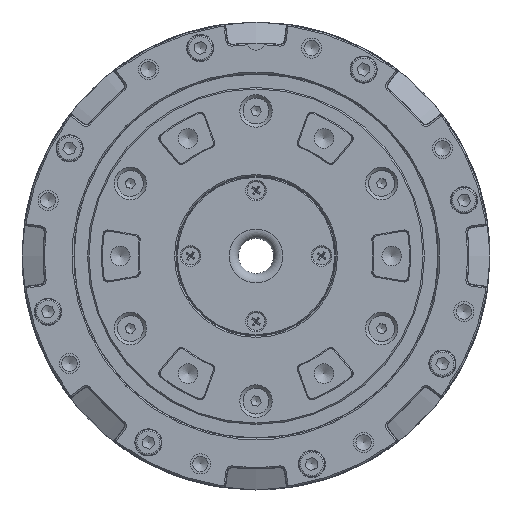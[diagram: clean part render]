
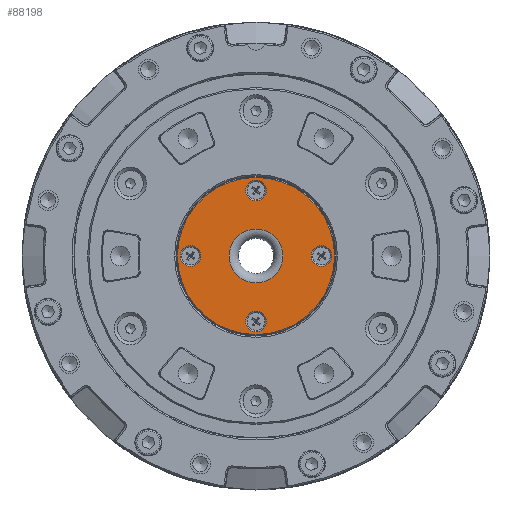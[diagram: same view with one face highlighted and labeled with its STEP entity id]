
A CAD part, front view. The second image highlights one B-rep face of the part: STEP entity #88198.
In plain terms, the highlighted planar face has unit normal (0, -1, 0).
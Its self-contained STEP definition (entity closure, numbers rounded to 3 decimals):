
#88081=CARTESIAN_POINT('',(-14.,0.4,-2.2));
#88082=VERTEX_POINT('',#88081);
#88091=CARTESIAN_POINT('',(-14.,0.4,0.));
#88092=DIRECTION('',(0.,0.,-1.));
#88093=DIRECTION('',(0.,-1.,0.));
#88094=AXIS2_PLACEMENT_3D('',#88091,#88093,#88092);
#88095=CIRCLE('',#88094,2.2);
#88096=EDGE_CURVE('',#88082,#88082,#88095,.T.);
#88106=CARTESIAN_POINT('',(14.,0.4,-2.2));
#88107=VERTEX_POINT('',#88106);
#88116=CARTESIAN_POINT('',(14.,0.4,0.));
#88117=DIRECTION('',(0.,0.,-1.));
#88118=DIRECTION('',(0.,-1.,0.));
#88119=AXIS2_PLACEMENT_3D('',#88116,#88118,#88117);
#88120=CIRCLE('',#88119,2.2);
#88121=EDGE_CURVE('',#88107,#88107,#88120,.T.);
#88131=CARTESIAN_POINT('',(0.,0.4,11.8));
#88132=VERTEX_POINT('',#88131);
#88141=CARTESIAN_POINT('',(0.,0.4,14.));
#88142=DIRECTION('',(0.,0.,-1.));
#88143=DIRECTION('',(0.,-1.,0.));
#88144=AXIS2_PLACEMENT_3D('',#88141,#88143,#88142);
#88145=CIRCLE('',#88144,2.2);
#88146=EDGE_CURVE('',#88132,#88132,#88145,.T.);
#88151=CARTESIAN_POINT('',(0.,0.4,0.));
#88152=DIRECTION('',(1.,0.,0.));
#88153=DIRECTION('',(0.,-1.,0.));
#88154=AXIS2_PLACEMENT_3D('',#88151,#88153,#88152);
#88155=PLANE('',#88154);
#88156=CARTESIAN_POINT('',(16.8,0.4,0.));
#88157=VERTEX_POINT('',#88156);
#88158=CARTESIAN_POINT('',(0.,0.4,0.));
#88159=DIRECTION('',(1.,0.,0.));
#88160=DIRECTION('',(0.,-1.,0.));
#88161=AXIS2_PLACEMENT_3D('',#88158,#88160,#88159);
#88162=CIRCLE('',#88161,16.8);
#88163=EDGE_CURVE('',#88157,#88157,#88162,.T.);
#88164=ORIENTED_EDGE('',*,*,#88163,.T.);
#88165=EDGE_LOOP('',(#88164));
#88166=FACE_OUTER_BOUND('',#88165,.T.);
#88167=CARTESIAN_POINT('',(0.,0.4,-16.2));
#88168=VERTEX_POINT('',#88167);
#88169=CARTESIAN_POINT('',(0.,0.4,-14.));
#88170=DIRECTION('',(0.,0.,-1.));
#88171=DIRECTION('',(0.,1.,0.));
#88172=AXIS2_PLACEMENT_3D('',#88169,#88171,#88170);
#88173=CIRCLE('',#88172,2.2);
#88174=EDGE_CURVE('',#88168,#88168,#88173,.T.);
#88175=ORIENTED_EDGE('',*,*,#88174,.T.);
#88176=EDGE_LOOP('',(#88175));
#88177=FACE_BOUND('',#88176,.T.);
#88178=ORIENTED_EDGE('',*,*,#88146,.F.);
#88179=EDGE_LOOP('',(#88178));
#88180=FACE_BOUND('',#88179,.T.);
#88181=ORIENTED_EDGE('',*,*,#88121,.F.);
#88182=EDGE_LOOP('',(#88181));
#88183=FACE_BOUND('',#88182,.T.);
#88184=ORIENTED_EDGE('',*,*,#88096,.F.);
#88185=EDGE_LOOP('',(#88184));
#88186=FACE_BOUND('',#88185,.T.);
#88187=CARTESIAN_POINT('',(5.75,0.4,0.));
#88188=VERTEX_POINT('',#88187);
#88189=CARTESIAN_POINT('',(0.,0.4,0.));
#88190=DIRECTION('',(1.,0.,0.));
#88191=DIRECTION('',(0.,1.,0.));
#88192=AXIS2_PLACEMENT_3D('',#88189,#88191,#88190);
#88193=CIRCLE('',#88192,5.75);
#88194=EDGE_CURVE('',#88188,#88188,#88193,.T.);
#88195=ORIENTED_EDGE('',*,*,#88194,.T.);
#88196=EDGE_LOOP('',(#88195));
#88197=FACE_BOUND('',#88196,.T.);
#88198=ADVANCED_FACE('',(#88166,#88177,#88180,#88183,#88186,#88197),#88155,.T.);
